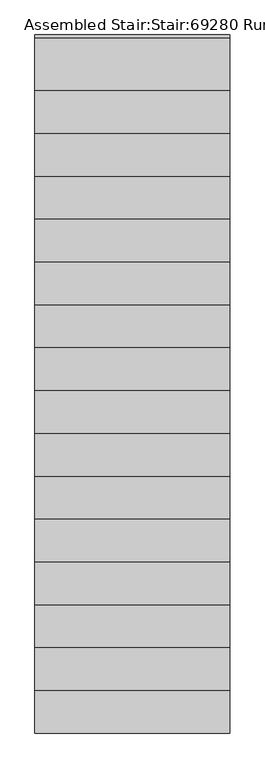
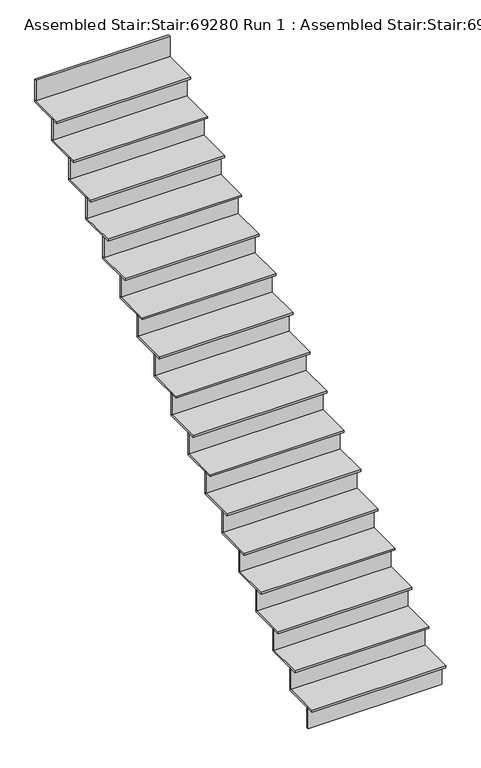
"""IFC4 building model written with IfcOpenShell, lengths in millimetres: stair geometry, Assembled Stair:Stair:69280 Run 1 : Assembled Stair:Stair:69280 Run 1."""

from ifc_helpers import new_model, si_unit, frame, origin, origin_with_axes, place, context, project, spatial, polyline, outline, extrude, source, transform, mapped, element, save


def assembled_stair_stair_69280_run_1_assembled_stair_stair_6d8b1960(model_context):
    return source(origin(), model_context, "Body", "SweptSolid", [
        extrude(outline(polyline([(25274.8089026, -21739.6322236), (26274.8089026, -21739.6322236), (26274.8089026, -21754.6322236), (25274.8089026, -21754.6322236), (25274.8089026, -21739.6322236)])), frame((0.0, 0.0, 2823.5294118), z_axis=(0.0, 0.0, 1.0), x_axis=(1.0, 0.0, 0.0)), (0.0, 0.0, 1.0), 161.4705882),
        extrude(outline(polyline([(25274.8089026, -21959.6322236), (26274.8089026, -21959.6322236), (26274.8089026, -21974.6322236), (25274.8089026, -21974.6322236), (25274.8089026, -21959.6322236)])), frame((0.0, 0.0, 2647.0588235), z_axis=(0.0, 0.0, 1.0), x_axis=(1.0, 0.0, 0.0)), (0.0, 0.0, 1.0), 161.4705882),
        extrude(outline(polyline([(25274.8089026, -22024.6322236), (25274.8089026, -21739.6322236), (26274.8089026, -21739.6322236), (26274.8089026, -22024.6322236), (25274.8089026, -22024.6322236)])), frame((0.0, 0.0, 2808.5294118), z_axis=(0.0, 0.0, 1.0), x_axis=(1.0, 0.0, 0.0)), (0.0, 0.0, 1.0), 15.0),
        extrude(outline(polyline([(25274.8089026, -22179.6322236), (26274.8089026, -22179.6322236), (26274.8089026, -22194.6322236), (25274.8089026, -22194.6322236), (25274.8089026, -22179.6322236)])), frame((0.0, 0.0, 2470.5882353), z_axis=(0.0, 0.0, 1.0), x_axis=(1.0, 0.0, 0.0)), (0.0, 0.0, 1.0), 161.4705882),
        extrude(outline(polyline([(25274.8089026, -22244.6322236), (25274.8089026, -21959.6322236), (26274.8089026, -21959.6322236), (26274.8089026, -22244.6322236), (25274.8089026, -22244.6322236)])), frame((0.0, 0.0, 2632.0588235), z_axis=(0.0, 0.0, 1.0), x_axis=(1.0, 0.0, 0.0)), (0.0, 0.0, 1.0), 15.0),
        extrude(outline(polyline([(25274.8089026, -22399.6322236), (26274.8089026, -22399.6322236), (26274.8089026, -22414.6322236), (25274.8089026, -22414.6322236), (25274.8089026, -22399.6322236)])), frame((0.0, 0.0, 2294.1176471), z_axis=(0.0, 0.0, 1.0), x_axis=(1.0, 0.0, 0.0)), (0.0, 0.0, 1.0), 161.4705882),
        extrude(outline(polyline([(25274.8089026, -22464.6322236), (25274.8089026, -22179.6322236), (26274.8089026, -22179.6322236), (26274.8089026, -22464.6322236), (25274.8089026, -22464.6322236)])), frame((0.0, 0.0, 2455.5882353), z_axis=(0.0, 0.0, 1.0), x_axis=(1.0, 0.0, 0.0)), (0.0, 0.0, 1.0), 15.0),
        extrude(outline(polyline([(25274.8089026, -22619.6322236), (26274.8089026, -22619.6322236), (26274.8089026, -22634.6322236), (25274.8089026, -22634.6322236), (25274.8089026, -22619.6322236)])), frame((0.0, 0.0, 2117.6470588), z_axis=(0.0, 0.0, 1.0), x_axis=(1.0, 0.0, 0.0)), (0.0, 0.0, 1.0), 161.4705882),
        extrude(outline(polyline([(25274.8089026, -22684.6322236), (25274.8089026, -22399.6322236), (26274.8089026, -22399.6322236), (26274.8089026, -22684.6322236), (25274.8089026, -22684.6322236)])), frame((0.0, 0.0, 2279.1176471), z_axis=(0.0, 0.0, 1.0), x_axis=(1.0, 0.0, 0.0)), (0.0, 0.0, 1.0), 15.0),
        extrude(outline(polyline([(25274.8089026, -22839.6322236), (26274.8089026, -22839.6322236), (26274.8089026, -22854.6322236), (25274.8089026, -22854.6322236), (25274.8089026, -22839.6322236)])), frame((0.0, 0.0, 1941.1764706), z_axis=(0.0, 0.0, 1.0), x_axis=(1.0, 0.0, 0.0)), (0.0, 0.0, 1.0), 161.4705882),
        extrude(outline(polyline([(25274.8089026, -22904.6322236), (25274.8089026, -22619.6322236), (26274.8089026, -22619.6322236), (26274.8089026, -22904.6322236), (25274.8089026, -22904.6322236)])), frame((0.0, 0.0, 2102.6470588), z_axis=(0.0, 0.0, 1.0), x_axis=(1.0, 0.0, 0.0)), (0.0, 0.0, 1.0), 15.0),
        extrude(outline(polyline([(25274.8089026, -23059.6322236), (26274.8089026, -23059.6322236), (26274.8089026, -23074.6322236), (25274.8089026, -23074.6322236), (25274.8089026, -23059.6322236)])), frame((0.0, 0.0, 1764.7058824), z_axis=(0.0, 0.0, 1.0), x_axis=(1.0, 0.0, 0.0)), (0.0, 0.0, 1.0), 161.4705882),
        extrude(outline(polyline([(25274.8089026, -23124.6322236), (25274.8089026, -22839.6322236), (26274.8089026, -22839.6322236), (26274.8089026, -23124.6322236), (25274.8089026, -23124.6322236)])), frame((0.0, 0.0, 1926.1764706), z_axis=(0.0, 0.0, 1.0), x_axis=(1.0, 0.0, 0.0)), (0.0, 0.0, 1.0), 15.0),
        extrude(outline(polyline([(25274.8089026, -23279.6322236), (26274.8089026, -23279.6322236), (26274.8089026, -23294.6322236), (25274.8089026, -23294.6322236), (25274.8089026, -23279.6322236)])), frame((0.0, 0.0, 1588.2352941), z_axis=(0.0, 0.0, 1.0), x_axis=(1.0, 0.0, 0.0)), (0.0, 0.0, 1.0), 161.4705882),
        extrude(outline(polyline([(25274.8089026, -23344.6322236), (25274.8089026, -23059.6322236), (26274.8089026, -23059.6322236), (26274.8089026, -23344.6322236), (25274.8089026, -23344.6322236)])), frame((0.0, 0.0, 1749.7058824), z_axis=(0.0, 0.0, 1.0), x_axis=(1.0, 0.0, 0.0)), (0.0, 0.0, 1.0), 15.0),
        extrude(outline(polyline([(25274.8089026, -23499.6322236), (26274.8089026, -23499.6322236), (26274.8089026, -23514.6322236), (25274.8089026, -23514.6322236), (25274.8089026, -23499.6322236)])), frame((0.0, 0.0, 1411.7647059), z_axis=(0.0, 0.0, 1.0), x_axis=(1.0, 0.0, 0.0)), (0.0, 0.0, 1.0), 161.4705882),
        extrude(outline(polyline([(25274.8089026, -23564.6322236), (25274.8089026, -23279.6322236), (26274.8089026, -23279.6322236), (26274.8089026, -23564.6322236), (25274.8089026, -23564.6322236)])), frame((0.0, 0.0, 1573.2352941), z_axis=(0.0, 0.0, 1.0), x_axis=(1.0, 0.0, 0.0)), (0.0, 0.0, 1.0), 15.0),
        extrude(outline(polyline([(25274.8089026, -23719.6322236), (26274.8089026, -23719.6322236), (26274.8089026, -23734.6322236), (25274.8089026, -23734.6322236), (25274.8089026, -23719.6322236)])), frame((0.0, 0.0, 1235.2941176), z_axis=(0.0, 0.0, 1.0), x_axis=(1.0, 0.0, 0.0)), (0.0, 0.0, 1.0), 161.4705882),
        extrude(outline(polyline([(25274.8089026, -23784.6322236), (25274.8089026, -23499.6322236), (26274.8089026, -23499.6322236), (26274.8089026, -23784.6322236), (25274.8089026, -23784.6322236)])), frame((0.0, 0.0, 1396.7647059), z_axis=(0.0, 0.0, 1.0), x_axis=(1.0, 0.0, 0.0)), (0.0, 0.0, 1.0), 15.0),
        extrude(outline(polyline([(25274.8089026, -23939.6322236), (26274.8089026, -23939.6322236), (26274.8089026, -23954.6322236), (25274.8089026, -23954.6322236), (25274.8089026, -23939.6322236)])), frame((0.0, 0.0, 1058.8235294), z_axis=(0.0, 0.0, 1.0), x_axis=(1.0, 0.0, 0.0)), (0.0, 0.0, 1.0), 161.4705882),
        extrude(outline(polyline([(25274.8089026, -24004.6322236), (25274.8089026, -23719.6322236), (26274.8089026, -23719.6322236), (26274.8089026, -24004.6322236), (25274.8089026, -24004.6322236)])), frame((0.0, 0.0, 1220.2941176), z_axis=(0.0, 0.0, 1.0), x_axis=(1.0, 0.0, 0.0)), (0.0, 0.0, 1.0), 15.0),
        extrude(outline(polyline([(25274.8089026, -24159.6322236), (26274.8089026, -24159.6322236), (26274.8089026, -24174.6322236), (25274.8089026, -24174.6322236), (25274.8089026, -24159.6322236)])), frame((0.0, 0.0, 882.3529412), z_axis=(0.0, 0.0, 1.0), x_axis=(1.0, 0.0, 0.0)), (0.0, 0.0, 1.0), 161.4705882),
        extrude(outline(polyline([(25274.8089026, -24224.6322236), (25274.8089026, -23939.6322236), (26274.8089026, -23939.6322236), (26274.8089026, -24224.6322236), (25274.8089026, -24224.6322236)])), frame((0.0, 0.0, 1043.8235294), z_axis=(0.0, 0.0, 1.0), x_axis=(1.0, 0.0, 0.0)), (0.0, 0.0, 1.0), 15.0),
        extrude(outline(polyline([(25274.8089026, -24379.6322236), (26274.8089026, -24379.6322236), (26274.8089026, -24394.6322236), (25274.8089026, -24394.6322236), (25274.8089026, -24379.6322236)])), frame((0.0, 0.0, 705.8823529), z_axis=(0.0, 0.0, 1.0), x_axis=(1.0, 0.0, 0.0)), (0.0, 0.0, 1.0), 161.4705882),
        extrude(outline(polyline([(25274.8089026, -24444.6322236), (25274.8089026, -24159.6322236), (26274.8089026, -24159.6322236), (26274.8089026, -24444.6322236), (25274.8089026, -24444.6322236)])), frame((0.0, 0.0, 867.3529412), z_axis=(0.0, 0.0, 1.0), x_axis=(1.0, 0.0, 0.0)), (0.0, 0.0, 1.0), 15.0),
        extrude(outline(polyline([(25274.8089026, -24599.6322236), (26274.8089026, -24599.6322236), (26274.8089026, -24614.6322236), (25274.8089026, -24614.6322236), (25274.8089026, -24599.6322236)])), frame((0.0, 0.0, 529.4117647), z_axis=(0.0, 0.0, 1.0), x_axis=(1.0, 0.0, 0.0)), (0.0, 0.0, 1.0), 161.4705882),
        extrude(outline(polyline([(25274.8089026, -24664.6322236), (25274.8089026, -24379.6322236), (26274.8089026, -24379.6322236), (26274.8089026, -24664.6322236), (25274.8089026, -24664.6322236)])), frame((0.0, 0.0, 690.8823529), z_axis=(0.0, 0.0, 1.0), x_axis=(1.0, 0.0, 0.0)), (0.0, 0.0, 1.0), 15.0),
        extrude(outline(polyline([(25274.8089026, -24819.6322236), (26274.8089026, -24819.6322236), (26274.8089026, -24834.6322236), (25274.8089026, -24834.6322236), (25274.8089026, -24819.6322236)])), frame((0.0, 0.0, 352.9411765), z_axis=(0.0, 0.0, 1.0), x_axis=(1.0, 0.0, 0.0)), (0.0, 0.0, 1.0), 161.4705882),
        extrude(outline(polyline([(25274.8089026, -24884.6322236), (25274.8089026, -24599.6322236), (26274.8089026, -24599.6322236), (26274.8089026, -24884.6322236), (25274.8089026, -24884.6322236)])), frame((0.0, 0.0, 514.4117647), z_axis=(0.0, 0.0, 1.0), x_axis=(1.0, 0.0, 0.0)), (0.0, 0.0, 1.0), 15.0),
        extrude(outline(polyline([(25274.8089026, -25039.6322236), (26274.8089026, -25039.6322236), (26274.8089026, -25054.6322236), (25274.8089026, -25054.6322236), (25274.8089026, -25039.6322236)])), frame((0.0, 0.0, 176.4705882), z_axis=(0.0, 0.0, 1.0), x_axis=(1.0, 0.0, 0.0)), (0.0, 0.0, 1.0), 161.4705882),
        extrude(outline(polyline([(25274.8089026, -25104.6322236), (25274.8089026, -24819.6322236), (26274.8089026, -24819.6322236), (26274.8089026, -25104.6322236), (25274.8089026, -25104.6322236)])), frame((0.0, 0.0, 337.9411765), z_axis=(0.0, 0.0, 1.0), x_axis=(1.0, 0.0, 0.0)), (0.0, 0.0, 1.0), 15.0),
        extrude(outline(polyline([(25274.8089026, -25259.6322236), (26274.8089026, -25259.6322236), (26274.8089026, -25274.6322236), (25274.8089026, -25274.6322236), (25274.8089026, -25259.6322236)])), origin_with_axes(), (0.0, 0.0, 1.0), 161.4705882),
        extrude(outline(polyline([(25274.8089026, -25324.6322236), (25274.8089026, -25039.6322236), (26274.8089026, -25039.6322236), (26274.8089026, -25324.6322236), (25274.8089026, -25324.6322236)])), frame((0.0, 0.0, 161.4705882), z_axis=(0.0, 0.0, 1.0), x_axis=(1.0, 0.0, 0.0)), (0.0, 0.0, 1.0), 15.0),
    ])


if __name__ == "__main__":
    model = new_model("IFC4")
    model_context = context("Model", 3, world=origin())
    ifc_project = project(units=[si_unit("LENGTHUNIT", "METRE", prefix="MILLI")], contexts=[model_context])
    site = spatial("IfcSite", under=ifc_project)
    building = spatial("IfcBuilding", under=site)
    placement = place(None, origin())
    assembled_stair_stair_69280_run_1_assembled_stair_stair_shape = assembled_stair_stair_69280_run_1_assembled_stair_stair_6d8b1960(model_context)
    element("IfcStair", 1, ObjectType="Assembled Stair:Stair:69280 Run 1 : Assembled Stair:Stair:69280 Run 1", at=placement, inside=building, context=model_context, shape_type="MappedRepresentation", body=[
        mapped(assembled_stair_stair_69280_run_1_assembled_stair_stair_shape, transform((0.0, 0.0, 0.0), x_axis=(1.0, 0.0, 0.0), y_axis=(0.0, 1.0, 0.0), z_axis=(0.0, 0.0, 1.0))),
    ])
    save(model, "model.ifc")
